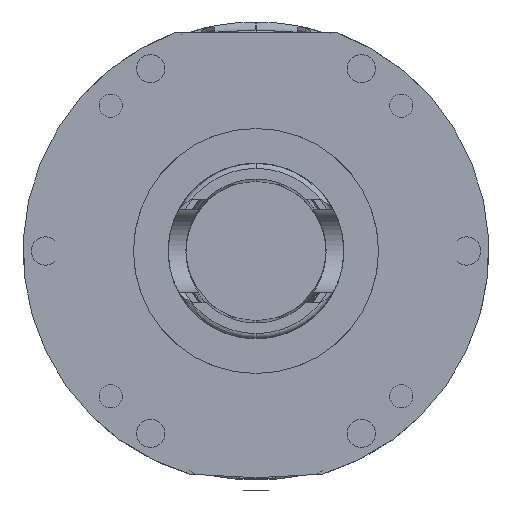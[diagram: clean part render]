
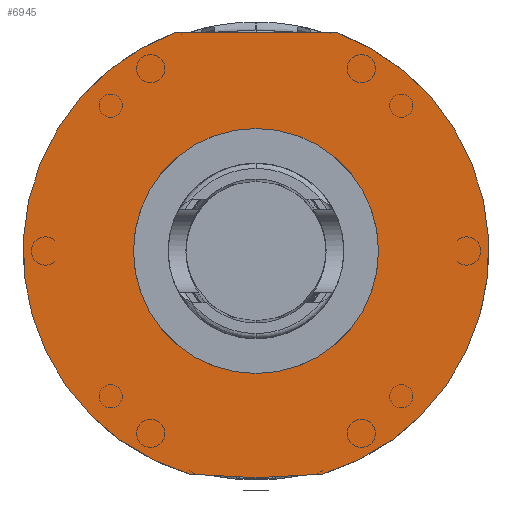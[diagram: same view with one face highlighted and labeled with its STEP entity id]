
A CAD part, front view. The second image highlights one B-rep face of the part: STEP entity #6945.
In plain terms, the highlighted planar face has unit normal (0, -1, 0).
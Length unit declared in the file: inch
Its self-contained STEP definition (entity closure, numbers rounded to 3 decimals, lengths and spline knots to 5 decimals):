
#3479=DIRECTION('',(-1.,0.,0.));
#3480=VECTOR('',#3479,1.96125);
#3481=CARTESIAN_POINT('',(0.98062,0.,2.66));
#3482=LINE('',#3481,#3480);
#3483=CARTESIAN_POINT('',(0.,0.,0.));
#3484=DIRECTION('',(0.,1.,0.));
#3485=DIRECTION('',(0.346,0.,0.938));
#3486=AXIS2_PLACEMENT_3D('',#3483,#3484,#3485);
#3488=CARTESIAN_POINT('',(0.80393,0.,-2.68733));
#3489=DIRECTION('',(0.,1.,0.));
#3490=DIRECTION('',(0.287,0.,-0.958));
#3491=AXIS2_PLACEMENT_3D('',#3488,#3489,#3490);
#3493=CARTESIAN_POINT('',(-0.80393,0.,-2.68733));
#3494=DIRECTION('',(0.,1.,0.));
#3495=DIRECTION('',(-0.052,0.,-0.999));
#3496=AXIS2_PLACEMENT_3D('',#3493,#3494,#3495);
#3498=CARTESIAN_POINT('',(0.,0.,0.));
#3499=DIRECTION('',(0.,1.,0.));
#3500=DIRECTION('',(-0.287,0.,-0.958));
#3501=AXIS2_PLACEMENT_3D('',#3498,#3499,#3500);
#4332=DIRECTION('',(0.999,0.,0.052));
#4333=VECTOR('',#4332,0.8066);
#4334=CARTESIAN_POINT('',(0.,0.,-2.7595));
#4335=LINE('',#4334,#4333);
#4406=DIRECTION('',(0.999,0.,-0.052));
#4407=VECTOR('',#4406,0.8066);
#4408=CARTESIAN_POINT('',(-0.8055,0.,-2.71729));
#4409=LINE('',#4408,#4407);
#5828=CARTESIAN_POINT('',(-0.98062,0.,2.66));
#5829=VERTEX_POINT('',#5828);
#5830=CARTESIAN_POINT('',(0.98062,0.,2.66));
#5831=VERTEX_POINT('',#5830);
#5852=CARTESIAN_POINT('',(-0.81253,0.,-2.71607));
#5853=VERTEX_POINT('',#5852);
#5854=CARTESIAN_POINT('',(0.81253,0.,-2.71607));
#5855=VERTEX_POINT('',#5854);
#6135=CARTESIAN_POINT('',(0.,0.,-2.7595));
#6136=CARTESIAN_POINT('',(0.8055,0.,-2.71729));
#6137=VERTEX_POINT('',#6135);
#6138=VERTEX_POINT('',#6136);
#6139=CARTESIAN_POINT('',(-0.8055,0.,-2.71729));
#6140=VERTEX_POINT('',#6139);
#6924=CARTESIAN_POINT('',(0.,0.,0.));
#6925=DIRECTION('',(0.,-1.,0.));
#6926=DIRECTION('',(0.,0.,1.));
#6927=AXIS2_PLACEMENT_3D('',#6924,#6925,#6926);
#6928=PLANE('',#6927);
#6930=ORIENTED_EDGE('',*,*,#6929,.F.);
#6932=ORIENTED_EDGE('',*,*,#6931,.T.);
#6934=ORIENTED_EDGE('',*,*,#6933,.T.);
#6936=ORIENTED_EDGE('',*,*,#6935,.F.);
#6938=ORIENTED_EDGE('',*,*,#6937,.F.);
#6940=ORIENTED_EDGE('',*,*,#6939,.T.);
#6942=ORIENTED_EDGE('',*,*,#6941,.T.);
#6943=EDGE_LOOP('',(#6930,#6932,#6934,#6936,#6938,#6940,#6942));
#6944=FACE_OUTER_BOUND('',#6943,.F.);
#6945=ADVANCED_FACE('',(#6944),#6928,.T.);
#3487=CIRCLE('',#3486,2.835);
#3492=CIRCLE('',#3491,0.03);
#3497=CIRCLE('',#3496,0.03);
#3502=CIRCLE('',#3501,2.835);
#6929=EDGE_CURVE('',#5831,#5829,#3482,.T.);
#6931=EDGE_CURVE('',#5831,#5855,#3487,.T.);
#6933=EDGE_CURVE('',#5855,#6138,#3492,.T.);
#6935=EDGE_CURVE('',#6137,#6138,#4335,.T.);
#6937=EDGE_CURVE('',#6140,#6137,#4409,.T.);
#6939=EDGE_CURVE('',#6140,#5853,#3497,.T.);
#6941=EDGE_CURVE('',#5853,#5829,#3502,.T.);
